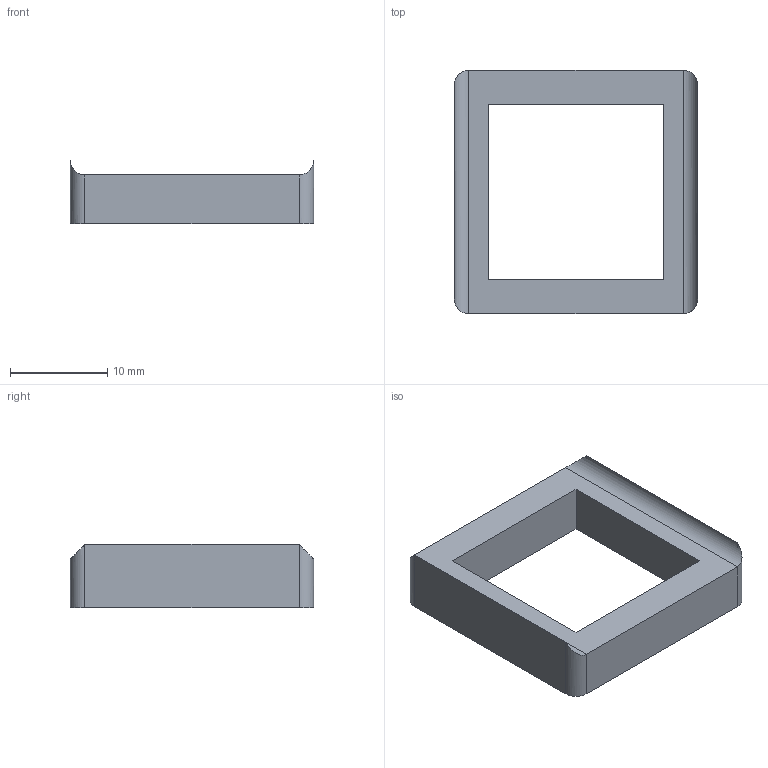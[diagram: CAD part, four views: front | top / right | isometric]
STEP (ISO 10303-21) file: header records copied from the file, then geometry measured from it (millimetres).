
FILE_DESCRIPTION (( 'STEP AP203' ), '1' );
FILE_NAME ('F025201.STEP', '2017-03-22T12:35:55', ( 'Localadmin' ), ( 'Microsoft' ), 'SwSTEP 2.0', 'SolidWorks 2016', '' );
FILE_SCHEMA (( 'CONFIG_CONTROL_DESIGN' ));
Length unit declared in the file: millimetre
Products named in the file (1): F025201
Bounding box: 25 x 25 x 6.5 mm (x, y, z)
Volume: 1518.2 mm3; surface area: 1556 mm2
Topology: 1 solids, 1 shells, 16 faces, 38 edges, 24 vertices
Faces by surface type: plane 10, cylinder 6
Entity records: 535 total; most frequent: CARTESIAN_POINT 91, ORIENTED_EDGE 76, DIRECTION 72, EDGE_CURVE 38, LINE 30, VECTOR 30, VERTEX_POINT 24, AXIS2_PLACEMENT_3D 21
